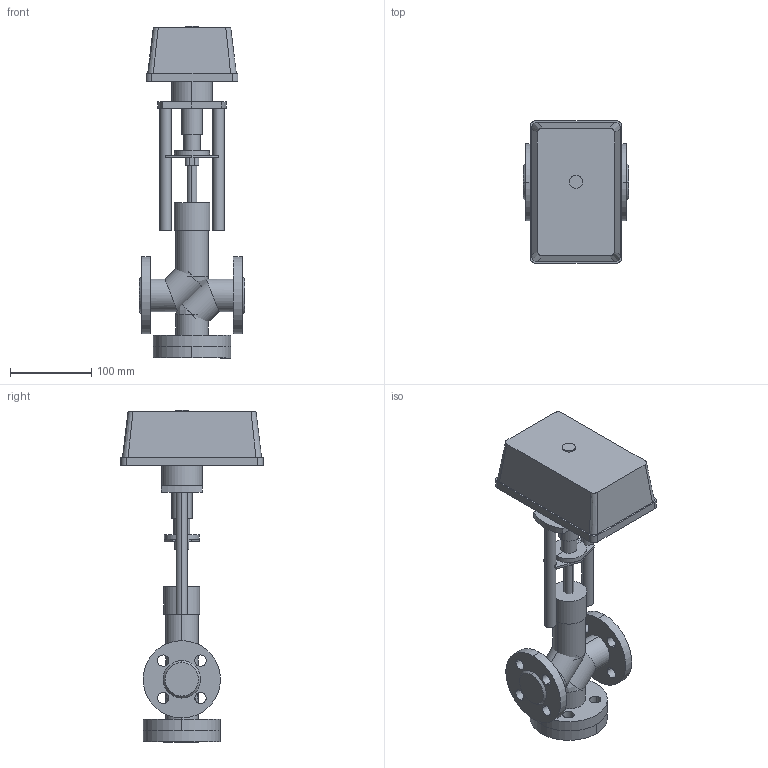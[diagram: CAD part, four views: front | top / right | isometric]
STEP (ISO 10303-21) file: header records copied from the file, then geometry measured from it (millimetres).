
FILE_DESCRIPTION(/* description */ (''),/* implementation_level */ '2;1');
FILE_NAME(/* name */ 'ТРК DN15 PN 1.6 МПа МИЭП-1 1600',/* time_stamp */ '2026-07-14T23:27:23+03:00',/* author */ (''),/* organization */ (''),/* preprocessor_version */ 'ST-DEVELOPER v20',/* originating_system */ '',/* authorisation */ '');
FILE_SCHEMA (('AP242_MANAGED_MODEL_BASED_3D_ENGINEERING_MIM_LF { 1 0 10303 442 1 1 4 }'));
Length unit declared in the file: millimetre
Products named in the file (14): TopLevelAssembly; Выдавливание; Модификатор; Модификатор_1; Выдавливание_
1; Выдавливание_
2; Вращение; Выдавливание_
3; Выдавливание_
4; 1600; Переход; Объемная геометрия 
присоединена; Полый Выдавливание; Объемная геометрия 
присоединена_1
Assembly tree (13 placements, depth 2):
  TopLevelAssembly
    Выдавливание
    Модификатор
    Модификатор_1
    Выдавливание_
1
    Выдавливание_
2
    Вращение
    Выдавливание_
3
    Выдавливание_
4
    1600
    Переход
    Объемная геометрия 
присоединена
    Полый Выдавливание
    Объемная геометрия 
присоединена_1
Bounding box: 130 x 175 x 408 mm (x, y, z)
Volume: 2029616.1 mm3; surface area: 293408.5 mm2
Topology: 23 solids, 23 shells, 171 faces, 357 edges, 226 vertices
Faces by surface type: cylinder 80, plane 79, bspline 8, cone 4
Entity records: 5224 total; most frequent: CARTESIAN_POINT 961, DIRECTION 909, ORIENTED_EDGE 698, AXIS2_PLACEMENT_3D 370, EDGE_CURVE 349, VERTEX_POINT 226, EDGE_LOOP 201, CIRCLE 172
